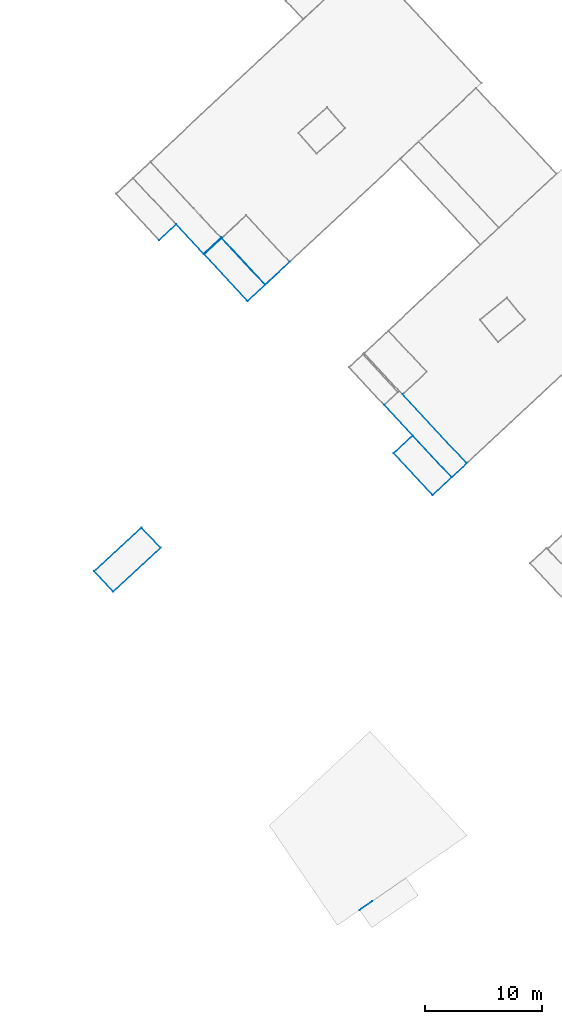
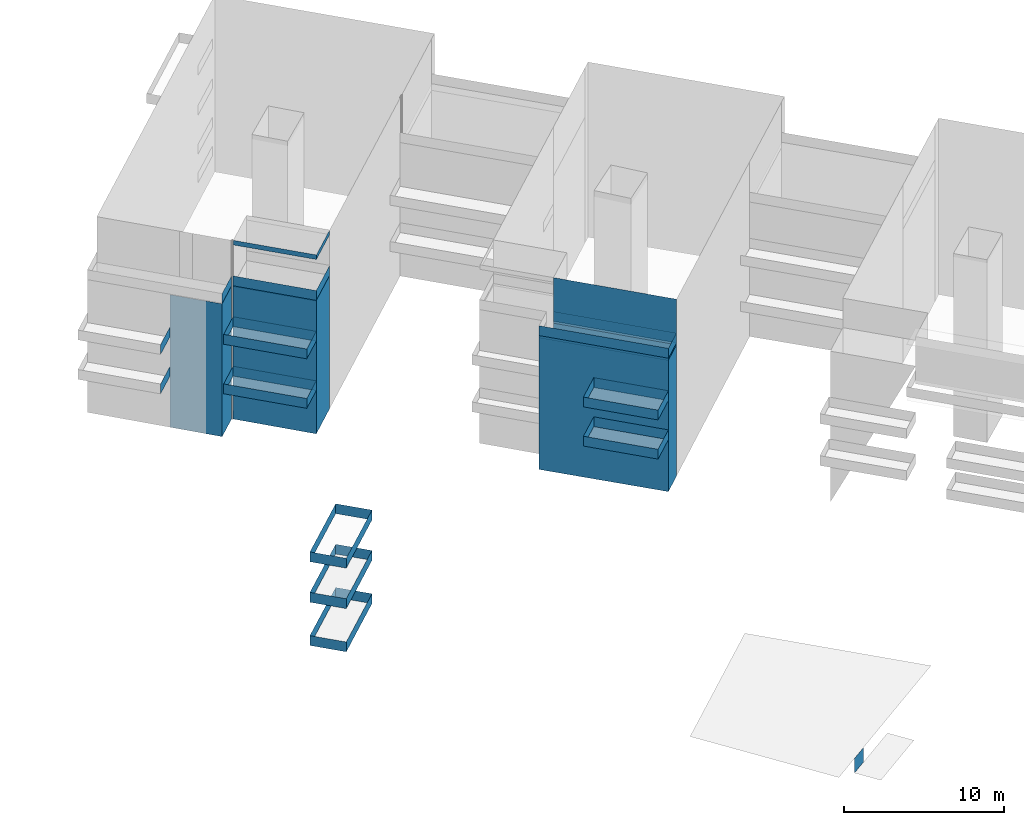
# Not in any storey, part 14 of 136: 89 walls.
"""IFC2X3 building model written with IfcOpenShell, lengths in metres."""

from ifc_helpers import new_model, entity, si_unit, converted_unit, frame, origin, place, context, subcontext, project, spatial, face_set, surface_model, element, save


model = new_model("IFC2X3")

# Units and contexts
model_context = context("Model", 3, precision=1e-05, world=origin())
body_context = subcontext(model_context, "Body", "Model", "MODEL_VIEW")
ifc_project = project(units=[converted_unit("PLANEANGLEUNIT", "DEGREE", entity("IfcRatioMeasure", 0.0174532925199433), si_unit("PLANEANGLEUNIT", "RADIAN"), dimensions=[0, 0, 0, 0, 0, 0, 0]), si_unit("AREAUNIT", "SQUARE_METRE"), si_unit("LENGTHUNIT", "METRE")], contexts=[model_context])

# Site, building
site_placement = place(None, origin())
site = spatial("IfcSite", under=ifc_project, at=site_placement, Name="_site", CompositionType="ELEMENT")
building_1_placement = place(site_placement, origin())
building_1 = spatial("IfcBuilding", under=site, at=building_1_placement, Name="_building", CompositionType="ELEMENT")

# Walls
wall_1_placement = place(building_1_placement, origin())
element("IfcWall", 1, at=wall_1_placement, inside=building_1, Name="Wall", context=body_context, shape_type="SurfaceModel", body=[
    surface_model("IfcFaceBasedSurfaceModel", [(108.5, -7.54, 45.01), (107.05, -8.89, 45.01), (107.05, -8.89, 45.76), (108.5, -7.54, 45.76)], [face_set([[[0, 1, 2, 3]]])]),
])
wall_2_placement = place(building_1_placement, origin())
element("IfcWall", 2, at=wall_2_placement, inside=building_1, Name="Wall", context=body_context, shape_type="SurfaceModel", body=[
    surface_model("IfcFaceBasedSurfaceModel", [(127.08, -27.09, 45.03), (128.7, -25.58, 45.03), (128.7, -25.58, 45.78), (127.08, -27.09, 45.78)], [face_set([[[0, 1, 2, 3]]])]),
])
wall_3_placement = place(building_1_placement, origin())
element("IfcWall", 3, at=wall_3_placement, inside=building_1, Name="Wall", context=body_context, shape_type="SurfaceModel", body=[
    surface_model("IfcFaceBasedSurfaceModel", [(130.41, -30.66, 45.03), (127.08, -27.09, 45.03), (127.08, -27.09, 45.78), (130.41, -30.66, 45.78)], [face_set([[[0, 1, 2, 3]]])]),
])
wall_4_placement = place(building_1_placement, origin())
element("IfcWall", 4, at=wall_4_placement, inside=building_1, Name="Wall", context=body_context, shape_type="SurfaceModel", body=[
    surface_model("IfcFaceBasedSurfaceModel", [(108.5, -7.54, 45.01), (107.05, -8.89, 45.01), (107.05, -8.89, 45.76), (108.5, -7.54, 45.76)], [face_set([[[0, 1, 2, 3]]])]),
])
wall_5_placement = place(building_1_placement, origin())
element("IfcWall", 5, at=wall_5_placement, inside=building_1, Name="Wall", context=body_context, shape_type="SurfaceModel", body=[
    surface_model("IfcFaceBasedSurfaceModel", [(132.03, -29.149, 45.03), (130.41, -30.66, 45.03), (130.41, -30.66, 45.78), (132.03, -29.149, 45.78)], [face_set([[[0, 1, 2, 3]]])]),
])
wall_6_placement = place(building_1_placement, origin())
element("IfcWall", 6, at=wall_6_placement, inside=building_1, Name="Wall", context=body_context, shape_type="SurfaceModel", body=[
    surface_model("IfcFaceBasedSurfaceModel", [(127.08, -27.09, 45.03), (128.7, -25.58, 45.03), (128.7, -25.58, 45.78), (127.08, -27.09, 45.78)], [face_set([[[0, 1, 2, 3]]])]),
])
wall_7_placement = place(building_1_placement, origin())
element("IfcWall", 7, at=wall_7_placement, inside=building_1, Name="Wall", context=body_context, shape_type="SurfaceModel", body=[
    surface_model("IfcFaceBasedSurfaceModel", [(130.41, -30.66, 45.03), (127.08, -27.09, 45.03), (127.08, -27.09, 45.78), (130.41, -30.66, 45.78)], [face_set([[[0, 1, 2, 3]]])]),
])
wall_8_placement = place(building_1_placement, origin())
element("IfcWall", 8, at=wall_8_placement, inside=building_1, Name="Wall", context=body_context, shape_type="SurfaceModel", body=[
    surface_model("IfcFaceBasedSurfaceModel", [(132.03, -29.149, 45.03), (130.41, -30.66, 45.03), (130.41, -30.66, 45.78), (132.03, -29.149, 45.78)], [face_set([[[0, 1, 2, 3]]])]),
])
wall_9_placement = place(building_1_placement, origin())
element("IfcWall", 9, at=wall_9_placement, inside=building_1, Name="Wall", context=body_context, shape_type="SurfaceModel", body=[
    surface_model("IfcFaceBasedSurfaceModel", [(128.7, -25.58, 45.03), (132.03, -29.149, 45.03), (132.03, -29.149, 45.78), (128.7, -25.58, 45.78)], [face_set([[[0, 1, 2, 3]]])]),
])
for number, where, name in (
    (10, (0.0, 0.0, 0.0), "Wall"),
    (11, (0.0, 0.0, 0.0), "Wall"),
):
    element("IfcWall", number, at=place(building_1_placement, frame(where)), inside=building_1, Name=name, context=body_context, shape_type="SurfaceModel", body=[
        surface_model("IfcFaceBasedSurfaceModel", [(108.5, -7.54, 42.0), (107.05, -8.89, 42.0), (107.05, -8.89, 42.75), (108.5, -7.54, 42.75)], [face_set([[[0, 1, 2, 3]]])]),
    ])
wall_10_placement = place(building_1_placement, origin())
element("IfcWall", 12, at=wall_10_placement, inside=building_1, Name="Wall", context=body_context, shape_type="SurfaceModel", body=[
    surface_model("IfcFaceBasedSurfaceModel", [(101.51, -37.17, 45.18), (105.53, -33.43, 45.18), (105.53, -33.43, 45.93), (101.51, -37.17, 45.93)], [face_set([[[0, 1, 2, 3]]])]),
])
wall_11_placement = place(building_1_placement, origin())
element("IfcWall", 13, at=wall_11_placement, inside=building_1, Name="Wall", context=body_context, shape_type="SurfaceModel", body=[
    surface_model("IfcFaceBasedSurfaceModel", [(103.13, -38.91, 45.18), (101.51, -37.17, 45.18), (101.51, -37.17, 45.93), (103.13, -38.91, 45.93)], [face_set([[[0, 1, 2, 3]]])]),
])
wall_12_placement = place(building_1_placement, origin())
element("IfcWall", 14, at=wall_12_placement, inside=building_1, Name="Wall", context=body_context, shape_type="SurfaceModel", body=[
    surface_model("IfcFaceBasedSurfaceModel", [(107.15, -35.16, 45.18), (103.13, -38.91, 45.18), (103.13, -38.91, 45.93), (107.15, -35.16, 45.93)], [face_set([[[0, 1, 2, 3]]])]),
])
wall_13_placement = place(building_1_placement, origin())
element("IfcWall", 15, at=wall_13_placement, inside=building_1, Name="Wall", context=body_context, shape_type="SurfaceModel", body=[
    surface_model("IfcFaceBasedSurfaceModel", [(105.53, -33.43, 45.18), (107.15, -35.16, 45.18), (107.15, -35.16, 45.93), (105.53, -33.43, 45.93)], [face_set([[[0, 1, 2, 3]]])]),
])
wall_14_placement = place(building_1_placement, origin())
element("IfcWall", 16, at=wall_14_placement, inside=building_1, Name="Wall", context=body_context, shape_type="SurfaceModel", body=[
    surface_model("IfcFaceBasedSurfaceModel", [(101.51, -37.17, 45.18), (105.53, -33.43, 45.18), (105.53, -33.43, 45.93), (101.51, -37.17, 45.93)], [face_set([[[0, 1, 2, 3]]])]),
])
wall_15_placement = place(building_1_placement, origin())
element("IfcWall", 17, at=wall_15_placement, inside=building_1, Name="Wall", context=body_context, shape_type="SurfaceModel", body=[
    surface_model("IfcFaceBasedSurfaceModel", [(103.13, -38.91, 45.18), (101.51, -37.17, 45.18), (101.51, -37.17, 45.93), (103.13, -38.91, 45.93)], [face_set([[[0, 1, 2, 3]]])]),
])
wall_16_placement = place(building_1_placement, origin())
element("IfcWall", 18, at=wall_16_placement, inside=building_1, Name="Wall", context=body_context, shape_type="SurfaceModel", body=[
    surface_model("IfcFaceBasedSurfaceModel", [(107.15, -35.16, 45.18), (103.13, -38.91, 45.18), (103.13, -38.91, 45.93), (107.15, -35.16, 45.93)], [face_set([[[0, 1, 2, 3]]])]),
])
wall_17_placement = place(building_1_placement, origin())
element("IfcWall", 19, at=wall_17_placement, inside=building_1, Name="Wall", context=body_context, shape_type="SurfaceModel", body=[
    surface_model("IfcFaceBasedSurfaceModel", [(105.53, -33.43, 45.18), (107.15, -35.16, 45.18), (107.15, -35.16, 45.93), (105.53, -33.43, 45.93)], [face_set([[[0, 1, 2, 3]]])]),
])
wall_18_placement = place(building_1_placement, origin())
element("IfcWall", 20, at=wall_18_placement, inside=building_1, Name="Wall", context=body_context, shape_type="SurfaceModel", body=[
    surface_model("IfcFaceBasedSurfaceModel", [(101.51, -37.17, 41.88), (105.53, -33.43, 41.88), (105.53, -33.43, 42.63), (101.51, -37.17, 42.63)], [face_set([[[0, 1, 2, 3]]])]),
])
wall_19_placement = place(building_1_placement, origin())
element("IfcWall", 21, at=wall_19_placement, inside=building_1, Name="Wall", context=body_context, shape_type="SurfaceModel", body=[
    surface_model("IfcFaceBasedSurfaceModel", [(103.13, -38.91, 41.88), (101.51, -37.17, 41.88), (101.51, -37.17, 42.63), (103.13, -38.91, 42.63)], [face_set([[[0, 1, 2, 3]]])]),
])
wall_20_placement = place(building_1_placement, origin())
element("IfcWall", 22, at=wall_20_placement, inside=building_1, Name="Wall", context=body_context, shape_type="SurfaceModel", body=[
    surface_model("IfcFaceBasedSurfaceModel", [(107.15, -35.16, 41.88), (103.13, -38.91, 41.88), (103.13, -38.91, 42.63), (107.15, -35.16, 42.63)], [face_set([[[0, 1, 2, 3]]])]),
])
wall_21_placement = place(building_1_placement, origin())
element("IfcWall", 23, at=wall_21_placement, inside=building_1, Name="Wall", context=body_context, shape_type="SurfaceModel", body=[
    surface_model("IfcFaceBasedSurfaceModel", [(116.09, -12.71, 48.29), (112.38, -8.729, 48.29), (112.38, -8.729, 49.04), (116.09, -12.71, 49.04)], [face_set([[[0, 1, 2, 3]]])]),
])
wall_22_placement = place(building_1_placement, origin())
element("IfcWall", 24, at=wall_22_placement, inside=building_1, Name="Wall", context=body_context, shape_type="SurfaceModel", body=[
    surface_model("IfcFaceBasedSurfaceModel", [(105.53, -33.43, 41.88), (107.15, -35.16, 41.88), (107.15, -35.16, 42.63), (105.53, -33.43, 42.63)], [face_set([[[0, 1, 2, 3]]])]),
])
wall_23_placement = place(building_1_placement, origin())
element("IfcWall", 25, at=wall_23_placement, inside=building_1, Name="Wall", context=body_context, shape_type="SurfaceModel", body=[
    surface_model("IfcFaceBasedSurfaceModel", [(101.51, -37.17, 41.88), (105.53, -33.43, 41.88), (105.53, -33.43, 42.63), (101.51, -37.17, 42.63)], [face_set([[[0, 1, 2, 3]]])]),
])
wall_24_placement = place(building_1_placement, origin())
element("IfcWall", 26, at=wall_24_placement, inside=building_1, Name="Wall", context=body_context, shape_type="SurfaceModel", body=[
    surface_model("IfcFaceBasedSurfaceModel", [(118.19, -10.75, 48.29), (116.09, -12.71, 48.29), (116.09, -12.71, 49.04), (118.19, -10.75, 49.04)], [face_set([[[0, 1, 2, 3]]])]),
])
wall_25_placement = place(building_1_placement, origin())
element("IfcWall", 27, at=wall_25_placement, inside=building_1, Name="Wall", context=body_context, shape_type="SurfaceModel", body=[
    surface_model("IfcFaceBasedSurfaceModel", [(103.13, -38.91, 41.88), (101.51, -37.17, 41.88), (101.51, -37.17, 42.63), (103.13, -38.91, 42.63)], [face_set([[[0, 1, 2, 3]]])]),
])
wall_26_placement = place(building_1_placement, origin())
element("IfcWall", 28, at=wall_26_placement, inside=building_1, Name="Wall", context=body_context, shape_type="SurfaceModel", body=[
    surface_model("IfcFaceBasedSurfaceModel", [(107.15, -35.16, 41.88), (103.13, -38.91, 41.88), (103.13, -38.91, 42.63), (107.15, -35.16, 42.63)], [face_set([[[0, 1, 2, 3]]])]),
])
wall_27_placement = place(building_1_placement, origin())
element("IfcWall", 29, at=wall_27_placement, inside=building_1, Name="Wall", context=body_context, shape_type="SurfaceModel", body=[
    surface_model("IfcFaceBasedSurfaceModel", [(105.53, -33.43, 41.88), (107.15, -35.16, 41.88), (107.15, -35.16, 42.63), (105.53, -33.43, 42.63)], [face_set([[[0, 1, 2, 3]]])]),
])
wall_28_placement = place(building_1_placement, origin())
element("IfcWall", 30, at=wall_28_placement, inside=building_1, Name="Wall", context=body_context, shape_type="SurfaceModel", body=[
    surface_model("IfcFaceBasedSurfaceModel", [(116.09, -12.71, 48.29), (112.38, -8.729, 48.29), (112.38, -8.729, 49.04), (116.09, -12.71, 49.04)], [face_set([[[0, 1, 2, 3]]])]),
])
wall_29_placement = place(building_1_placement, origin())
element("IfcWall", 31, at=wall_29_placement, inside=building_1, Name="Wall", context=body_context, shape_type="SurfaceModel", body=[
    surface_model("IfcFaceBasedSurfaceModel", [(118.19, -10.75, 48.29), (116.09, -12.71, 48.29), (116.09, -12.71, 49.04), (118.19, -10.75, 49.04)], [face_set([[[0, 1, 2, 3]]])]),
])
wall_30_placement = place(building_1_placement, origin())
element("IfcWall", 32, at=wall_30_placement, inside=building_1, Name="Wall", context=body_context, shape_type="SurfaceModel", body=[
    surface_model("IfcFaceBasedSurfaceModel", [(110.9, -10.11, 45.18), (112.38, -8.729, 45.18), (112.38, -8.729, 45.93), (110.9, -10.11, 45.93)], [face_set([[[0, 1, 2, 3]]])]),
])
wall_31_placement = place(building_1_placement, origin())
element("IfcWall", 33, at=wall_31_placement, inside=building_1, Name="Wall", context=body_context, shape_type="SurfaceModel", body=[
    surface_model("IfcFaceBasedSurfaceModel", [(114.61, -14.09, 45.18), (110.9, -10.11, 45.18), (110.9, -10.11, 45.93), (114.61, -14.09, 45.93)], [face_set([[[0, 1, 2, 3]]])]),
])
wall_32_placement = place(building_1_placement, origin())
element("IfcWall", 34, at=wall_32_placement, inside=building_1, Name="Wall", context=body_context, shape_type="SurfaceModel", body=[
    surface_model("IfcFaceBasedSurfaceModel", [(116.09, -12.71, 45.18), (114.61, -14.09, 45.18), (114.61, -14.09, 45.93), (116.09, -12.71, 45.93)], [face_set([[[0, 1, 2, 3]]])]),
])
wall_33_placement = place(building_1_placement, origin())
element("IfcWall", 35, at=wall_33_placement, inside=building_1, Name="Wall", context=body_context, shape_type="SurfaceModel", body=[
    surface_model("IfcFaceBasedSurfaceModel", [(110.9, -10.11, 45.18), (112.38, -8.729, 45.18), (112.38, -8.729, 45.93), (110.9, -10.11, 45.93)], [face_set([[[0, 1, 2, 3]]])]),
])
wall_34_placement = place(building_1_placement, origin())
element("IfcWall", 36, at=wall_34_placement, inside=building_1, Name="Wall", context=body_context, shape_type="SurfaceModel", body=[
    surface_model("IfcFaceBasedSurfaceModel", [(114.61, -14.09, 45.18), (110.9, -10.11, 45.18), (110.9, -10.11, 45.93), (114.61, -14.09, 45.93)], [face_set([[[0, 1, 2, 3]]])]),
])
wall_35_placement = place(building_1_placement, origin())
element("IfcWall", 37, at=wall_35_placement, inside=building_1, Name="Wall", context=body_context, shape_type="SurfaceModel", body=[
    surface_model("IfcFaceBasedSurfaceModel", [(116.09, -12.71, 45.18), (114.61, -14.09, 45.18), (114.61, -14.09, 45.93), (116.09, -12.71, 45.93)], [face_set([[[0, 1, 2, 3]]])]),
])
wall_36_placement = place(building_1_placement, origin())
element("IfcWall", 38, at=wall_36_placement, inside=building_1, Name="Wall", context=body_context, shape_type="SurfaceModel", body=[
    surface_model("IfcFaceBasedSurfaceModel", [(112.38, -8.729, 45.18), (116.09, -12.71, 45.18), (116.09, -12.71, 45.93), (112.38, -8.729, 45.93)], [face_set([[[0, 1, 2, 3]]])]),
])
wall_37_placement = place(building_1_placement, origin())
element("IfcWall", 39, at=wall_37_placement, inside=building_1, Name="Wall", context=body_context, shape_type="SurfaceModel", body=[
    surface_model("IfcFaceBasedSurfaceModel", [(101.51, -37.17, 48.27), (105.53, -33.43, 48.27), (105.53, -33.43, 49.02), (101.51, -37.17, 49.02)], [face_set([[[0, 1, 2, 3]]])]),
])
wall_38_placement = place(building_1_placement, origin())
element("IfcWall", 40, at=wall_38_placement, inside=building_1, Name="Wall", context=body_context, shape_type="SurfaceModel", body=[
    surface_model("IfcFaceBasedSurfaceModel", [(103.13, -38.91, 48.27), (101.51, -37.17, 48.27), (101.51, -37.17, 49.02), (103.13, -38.91, 49.02)], [face_set([[[0, 1, 2, 3]]])]),
])
wall_39_placement = place(building_1_placement, origin())
element("IfcWall", 41, at=wall_39_placement, inside=building_1, Name="Wall", context=body_context, shape_type="SurfaceModel", body=[
    surface_model("IfcFaceBasedSurfaceModel", [(107.15, -35.16, 48.27), (103.13, -38.91, 48.27), (103.13, -38.91, 49.02), (107.15, -35.16, 49.02)], [face_set([[[0, 1, 2, 3]]])]),
])
wall_40_placement = place(building_1_placement, origin())
element("IfcWall", 42, at=wall_40_placement, inside=building_1, Name="Wall", context=body_context, shape_type="SurfaceModel", body=[
    surface_model("IfcFaceBasedSurfaceModel", [(105.53, -33.43, 48.27), (107.15, -35.16, 48.27), (107.15, -35.16, 49.02), (105.53, -33.43, 49.02)], [face_set([[[0, 1, 2, 3]]])]),
])
wall_41_placement = place(building_1_placement, origin())
element("IfcWall", 43, at=wall_41_placement, inside=building_1, Name="Wall", context=body_context, shape_type="SurfaceModel", body=[
    surface_model("IfcFaceBasedSurfaceModel", [(101.51, -37.17, 48.27), (105.53, -33.43, 48.27), (105.53, -33.43, 49.02), (101.51, -37.17, 49.02)], [face_set([[[0, 1, 2, 3]]])]),
])
wall_42_placement = place(building_1_placement, origin())
element("IfcWall", 44, at=wall_42_placement, inside=building_1, Name="Wall", context=body_context, shape_type="SurfaceModel", body=[
    surface_model("IfcFaceBasedSurfaceModel", [(103.13, -38.91, 48.27), (101.51, -37.17, 48.27), (101.51, -37.17, 49.02), (103.13, -38.91, 49.02)], [face_set([[[0, 1, 2, 3]]])]),
])
wall_43_placement = place(building_1_placement, origin())
element("IfcWall", 45, at=wall_43_placement, inside=building_1, Name="Wall", context=body_context, shape_type="SurfaceModel", body=[
    surface_model("IfcFaceBasedSurfaceModel", [(107.15, -35.16, 48.27), (103.13, -38.91, 48.27), (103.13, -38.91, 49.02), (107.15, -35.16, 49.02)], [face_set([[[0, 1, 2, 3]]])]),
])
wall_44_placement = place(building_1_placement, origin())
element("IfcWall", 46, at=wall_44_placement, inside=building_1, Name="Wall", context=body_context, shape_type="SurfaceModel", body=[
    surface_model("IfcFaceBasedSurfaceModel", [(105.53, -33.43, 48.27), (107.15, -35.16, 48.27), (107.15, -35.16, 49.02), (105.53, -33.43, 49.02)], [face_set([[[0, 1, 2, 3]]])]),
])
wall_45_placement = place(building_1_placement, origin())
element("IfcWall", 47, at=wall_45_placement, inside=building_1, Name="Wall", context=body_context, shape_type="SurfaceModel", body=[
    surface_model("IfcFaceBasedSurfaceModel", [(127.08, -27.09, 42.04), (128.7, -25.58, 42.04), (128.7, -25.58, 42.79), (127.08, -27.09, 42.79)], [face_set([[[0, 1, 2, 3]]])]),
])
wall_46_placement = place(building_1_placement, origin())
element("IfcWall", 48, at=wall_46_placement, inside=building_1, Name="Wall", context=body_context, shape_type="SurfaceModel", body=[
    surface_model("IfcFaceBasedSurfaceModel", [(130.41, -30.66, 42.04), (127.08, -27.09, 42.04), (127.08, -27.09, 42.79), (130.41, -30.66, 42.79)], [face_set([[[0, 1, 2, 3]]])]),
])
wall_47_placement = place(building_1_placement, origin())
element("IfcWall", 49, at=wall_47_placement, inside=building_1, Name="Wall", context=body_context, shape_type="SurfaceModel", body=[
    surface_model("IfcFaceBasedSurfaceModel", [(132.03, -29.149, 42.04), (130.41, -30.66, 42.04), (130.41, -30.66, 42.79), (132.03, -29.149, 42.79)], [face_set([[[0, 1, 2, 3]]])]),
])
wall_48_placement = place(building_1_placement, origin())
element("IfcWall", 50, at=wall_48_placement, inside=building_1, Name="Wall", context=body_context, shape_type="SurfaceModel", body=[
    surface_model("IfcFaceBasedSurfaceModel", [(127.08, -27.09, 42.04), (128.7, -25.58, 42.04), (128.7, -25.58, 42.79), (127.08, -27.09, 42.79)], [face_set([[[0, 1, 2, 3]]])]),
])
wall_49_placement = place(building_1_placement, origin())
element("IfcWall", 51, at=wall_49_placement, inside=building_1, Name="Wall", context=body_context, shape_type="SurfaceModel", body=[
    surface_model("IfcFaceBasedSurfaceModel", [(130.41, -30.66, 42.04), (127.08, -27.09, 42.04), (127.08, -27.09, 42.79), (130.41, -30.66, 42.79)], [face_set([[[0, 1, 2, 3]]])]),
])
wall_50_placement = place(building_1_placement, origin())
element("IfcWall", 52, at=wall_50_placement, inside=building_1, Name="Wall", context=body_context, shape_type="SurfaceModel", body=[
    surface_model("IfcFaceBasedSurfaceModel", [(132.03, -29.149, 42.04), (130.41, -30.66, 42.04), (130.41, -30.66, 42.79), (132.03, -29.149, 42.79)], [face_set([[[0, 1, 2, 3]]])]),
])
wall_51_placement = place(building_1_placement, origin())
element("IfcWall", 53, at=wall_51_placement, inside=building_1, Name="Wall", context=body_context, shape_type="SurfaceModel", body=[
    surface_model("IfcFaceBasedSurfaceModel", [(128.7, -25.58, 42.04), (132.03, -29.149, 42.04), (132.03, -29.149, 42.79), (128.7, -25.58, 42.79)], [face_set([[[0, 1, 2, 3]]])]),
])
wall_52_placement = place(building_1_placement, origin())
element("IfcWall", 54, at=wall_52_placement, inside=building_1, Name="Wall", context=body_context, shape_type="SurfaceModel", body=[
    surface_model("IfcFaceBasedSurfaceModel", [(116.09, -12.71, 48.29), (112.38, -8.729, 48.29), (112.38, -8.729, 38.12), (116.09, -12.71, 38.097)], [face_set([[[0, 1, 2, 3]]])]),
])
wall_53_placement = place(building_1_placement, origin())
element("IfcWall", 55, at=wall_53_placement, inside=building_1, Name="Wall", context=body_context, shape_type="SurfaceModel", body=[
    surface_model("IfcFaceBasedSurfaceModel", [(112.32, -8.66, 48.29), (110.83, -10.05, 48.29), (110.83, -10.05, 38.115), (112.32, -8.66, 38.121)], [face_set([[[0, 1, 2, 3]]])]),
])
wall_54_placement = place(building_1_placement, origin())
element("IfcWall", 56, at=wall_54_placement, inside=building_1, Name="Wall", context=body_context, shape_type="SurfaceModel", body=[
    surface_model("IfcFaceBasedSurfaceModel", [(132.03, -29.149, 48.26), (126.26, -22.96, 48.26), (126.26, -22.96, 38.037), (132.03, -29.149, 38.074)], [face_set([[[0, 1, 2, 3]]])]),
])
wall_55_placement = place(building_1_placement, origin())
element("IfcWall", 57, at=wall_55_placement, inside=building_1, Name="Wall", context=body_context, shape_type="SurfaceModel", body=[
    surface_model("IfcFaceBasedSurfaceModel", [(133.31, -27.95, 48.26), (132.03, -29.149, 48.26), (132.03, -29.149, 38.074), (133.31, -27.95, 38.092)], [face_set([[[0, 1, 2, 3]]])]),
])
wall_56_placement = place(building_1_placement, origin())
element("IfcWall", 58, at=wall_56_placement, inside=building_1, Name="Wall", context=body_context, shape_type="SurfaceModel", body=[
    surface_model("IfcFaceBasedSurfaceModel", [(118.19, -10.75, 48.29), (116.09, -12.71, 48.29), (116.09, -12.71, 38.097), (118.19, -10.75, 38.104)], [face_set([[[0, 1, 2, 3]]])]),
])
wall_57_placement = place(building_1_placement, origin())
element("IfcWall", 59, at=wall_57_placement, inside=building_1, Name="Wall", context=body_context, shape_type="SurfaceModel", body=[
    surface_model("IfcFaceBasedSurfaceModel", [(132.03, -29.149, 48.11), (126.26, -22.96, 48.11), (126.26, -22.96, 38.037), (132.03, -29.149, 38.074)], [face_set([[[0, 1, 2, 3]]])]),
])
wall_58_placement = place(building_1_placement, origin())
element("IfcWall", 60, at=wall_58_placement, inside=building_1, Name="Wall", context=body_context, shape_type="SurfaceModel", body=[
    surface_model("IfcFaceBasedSurfaceModel", [(133.31, -27.95, 48.11), (132.03, -29.149, 48.11), (132.03, -29.149, 38.074), (133.31, -27.95, 38.092)], [face_set([[[0, 1, 2, 3]]])]),
])
wall_59_placement = place(building_1_placement, origin())
element("IfcWall", 61, at=wall_59_placement, inside=building_1, Name="Wall", context=body_context, shape_type="SurfaceModel", body=[
    surface_model("IfcFaceBasedSurfaceModel", [(116.09, -12.71, 48.25), (112.38, -8.729, 48.25), (112.38, -8.729, 38.12), (116.09, -12.71, 38.097)], [face_set([[[0, 1, 2, 3]]])]),
])
wall_60_placement = place(building_1_placement, origin())
element("IfcWall", 62, at=wall_60_placement, inside=building_1, Name="Wall", context=body_context, shape_type="SurfaceModel", body=[
    surface_model("IfcFaceBasedSurfaceModel", [(118.19, -10.75, 48.25), (116.09, -12.71, 48.25), (116.09, -12.71, 38.097), (118.19, -10.75, 38.104)], [face_set([[[0, 1, 2, 3]]])]),
])
wall_61_placement = place(building_1_placement, origin())
element("IfcWall", 63, at=wall_61_placement, inside=building_1, Name="Wall", context=body_context, shape_type="SurfaceModel", body=[
    surface_model("IfcFaceBasedSurfaceModel", [(110.83, -10.05, 48.25), (108.5, -7.54, 48.25), (108.5, -7.54, 38.131), (110.83, -10.05, 38.115)], [face_set([[[0, 1, 2, 3]]])]),
])
wall_62_placement = place(building_1_placement, origin())
element("IfcWall", 64, at=wall_62_placement, inside=building_1, Name="Wall", context=body_context, shape_type="SurfaceModel", body=[
    surface_model("IfcFaceBasedSurfaceModel", [(112.32, -8.66, 48.25), (110.83, -10.05, 48.25), (110.83, -10.05, 38.115), (112.32, -8.66, 38.121)], [face_set([[[0, 1, 2, 3]]])]),
])
wall_63_placement = place(building_1_placement, origin())
element("IfcWall", 65, at=wall_63_placement, inside=building_1, Name="Wall", context=body_context, shape_type="SurfaceModel", body=[
    surface_model("IfcFaceBasedSurfaceModel", [(110.9, -10.11, 41.4), (112.38, -8.729, 41.4), (112.38, -8.729, 42.15), (110.9, -10.11, 42.15)], [face_set([[[0, 1, 2, 3]]])]),
])
wall_64_placement = place(building_1_placement, origin())
element("IfcWall", 66, at=wall_64_placement, inside=building_1, Name="Wall", context=body_context, shape_type="SurfaceModel", body=[
    surface_model("IfcFaceBasedSurfaceModel", [(114.61, -14.09, 41.4), (110.9, -10.11, 41.4), (110.9, -10.11, 42.15), (114.61, -14.09, 42.15)], [face_set([[[0, 1, 2, 3]]])]),
])
wall_65_placement = place(building_1_placement, origin())
element("IfcWall", 67, at=wall_65_placement, inside=building_1, Name="Wall", context=body_context, shape_type="SurfaceModel", body=[
    surface_model("IfcFaceBasedSurfaceModel", [(116.09, -12.71, 41.4), (114.61, -14.09, 41.4), (114.61, -14.09, 42.15), (116.09, -12.71, 42.15)], [face_set([[[0, 1, 2, 3]]])]),
])
wall_66_placement = place(building_1_placement, origin())
element("IfcWall", 68, at=wall_66_placement, inside=building_1, Name="Wall", context=body_context, shape_type="SurfaceModel", body=[
    surface_model("IfcFaceBasedSurfaceModel", [(110.9, -10.11, 41.4), (112.38, -8.729, 41.4), (112.38, -8.729, 42.15), (110.9, -10.11, 42.15)], [face_set([[[0, 1, 2, 3]]])]),
])
wall_67_placement = place(building_1_placement, origin())
element("IfcWall", 69, at=wall_67_placement, inside=building_1, Name="Wall", context=body_context, shape_type="SurfaceModel", body=[
    surface_model("IfcFaceBasedSurfaceModel", [(114.61, -14.09, 41.4), (110.9, -10.11, 41.4), (110.9, -10.11, 42.15), (114.61, -14.09, 42.15)], [face_set([[[0, 1, 2, 3]]])]),
])
wall_68_placement = place(building_1_placement, origin())
element("IfcWall", 70, at=wall_68_placement, inside=building_1, Name="Wall", context=body_context, shape_type="SurfaceModel", body=[
    surface_model("IfcFaceBasedSurfaceModel", [(116.09, -12.71, 41.4), (114.61, -14.09, 41.4), (114.61, -14.09, 42.15), (116.09, -12.71, 42.15)], [face_set([[[0, 1, 2, 3]]])]),
])
wall_69_placement = place(building_1_placement, origin())
element("IfcWall", 71, at=wall_69_placement, inside=building_1, Name="Wall", context=body_context, shape_type="SurfaceModel", body=[
    surface_model("IfcFaceBasedSurfaceModel", [(112.38, -8.729, 41.4), (116.09, -12.71, 41.4), (116.09, -12.71, 42.15), (112.38, -8.729, 42.15)], [face_set([[[0, 1, 2, 3]]])]),
])
wall_70_placement = place(building_1_placement, origin())
element("IfcWall", 72, at=wall_70_placement, inside=building_1, Name="Wall", context=body_context, shape_type="SurfaceModel", body=[
    surface_model("IfcFaceBasedSurfaceModel", [(118.19, -10.75, 51.74), (116.11, -12.689, 51.74), (116.11, -12.689, 51.39), (118.19, -10.75, 51.39)], [face_set([[[0, 1, 2, 3]]])]),
])
for number, where, name in (
    (73, (0.0, 0.0, 0.0), "Wall"),
    (74, (0.0, 0.0, 0.0), "Wall"),
):
    element("IfcWall", number, at=place(building_1_placement, frame(where)), inside=building_1, Name=name, context=body_context, shape_type="SurfaceModel", body=[
        surface_model("IfcFaceBasedSurfaceModel", [(112.32, -8.66, 48.29), (110.83, -10.05, 48.29), (110.83, -10.05, 49.04), (112.32, -8.66, 49.04)], [face_set([[[0, 1, 2, 3]]])]),
    ])
wall_71_placement = place(building_1_placement, origin())
element("IfcWall", 75, at=wall_71_placement, inside=building_1, Name="Wall", context=body_context, shape_type="SurfaceModel", body=[
    surface_model("IfcFaceBasedSurfaceModel", [(132.03, -29.149, 48.26), (126.26, -22.96, 48.26), (126.26, -22.96, 49.01), (132.03, -29.149, 49.01)], [face_set([[[0, 1, 2, 3]]])]),
])
wall_72_placement = place(building_1_placement, origin())
element("IfcWall", 76, at=wall_72_placement, inside=building_1, Name="Wall", context=body_context, shape_type="SurfaceModel", body=[
    surface_model("IfcFaceBasedSurfaceModel", [(133.31, -27.95, 48.26), (132.03, -29.149, 48.26), (132.03, -29.149, 49.01), (133.31, -27.95, 49.01)], [face_set([[[0, 1, 2, 3]]])]),
])
wall_73_placement = place(building_1_placement, origin())
element("IfcWall", 77, at=wall_73_placement, inside=building_1, Name="Wall", context=body_context, shape_type="SurfaceModel", body=[
    surface_model("IfcFaceBasedSurfaceModel", [(132.03, -29.149, 48.26), (126.26, -22.96, 48.26), (126.26, -22.96, 49.01), (132.03, -29.149, 49.01)], [face_set([[[0, 1, 2, 3]]])]),
])
wall_74_placement = place(building_1_placement, origin())
element("IfcWall", 78, at=wall_74_placement, inside=building_1, Name="Wall", context=body_context, shape_type="SurfaceModel", body=[
    surface_model("IfcFaceBasedSurfaceModel", [(133.31, -27.95, 48.26), (132.03, -29.149, 48.26), (132.03, -29.149, 49.01), (133.31, -27.95, 49.01)], [face_set([[[0, 1, 2, 3]]])]),
])

# Building
building_2_placement = place(site_placement, origin())
building_2 = spatial("IfcBuilding", under=site, at=building_2_placement, Name="_building", CompositionType="ELEMENT")

# Walls
wall_75_placement = place(building_2_placement, origin())
element("IfcWall", 79, at=wall_75_placement, inside=building_2, Name="Wall", context=body_context, shape_type="SurfaceModel", body=[
    surface_model("IfcFaceBasedSurfaceModel", [(128.7, -25.58, 42.04), (132.03, -29.149, 42.04), (132.03, -29.149, 42.79), (128.7, -25.58, 42.79)], [face_set([[[0, 1, 2, 3]]])]),
])
wall_76_placement = place(building_2_placement, origin())
element("IfcWall", 80, at=wall_76_placement, inside=building_2, Name="Wall", context=body_context, shape_type="SurfaceModel", body=[
    surface_model("IfcFaceBasedSurfaceModel", [(127.82, -22.06, 48.26), (133.31, -27.95, 48.26), (133.31, -27.95, 38.092), (127.82, -22.06, 38.048)], [face_set([[[0, 1, 2, 3]]])]),
])
wall_77_placement = place(building_2_placement, origin())
element("IfcWall", 81, at=wall_77_placement, inside=building_2, Name="Wall", context=body_context, shape_type="SurfaceModel", body=[
    surface_model("IfcFaceBasedSurfaceModel", [(133.31, -27.95, 51.59), (127.82, -22.06, 51.59), (127.82, -22.06, 48.11), (133.31, -27.95, 48.11)], [face_set([[[0, 1, 2, 3]]])]),
])
for number, where, name in (
    (82, (0.0, 0.0, 0.0), "Wall"),
    (83, (0.0, 0.0, 0.0), "Wall"),
):
    element("IfcWall", number, at=place(building_2_placement, frame(where)), inside=building_2, Name=name, context=body_context, shape_type="SurfaceModel", body=[
        surface_model("IfcFaceBasedSurfaceModel", [(127.82, -22.06, 48.26), (133.31, -27.95, 48.26), (133.31, -27.95, 49.01), (127.82, -22.06, 49.01)], [face_set([[[0, 1, 2, 3]]])]),
    ])

# Building
building_3_placement = place(site_placement, origin())
building_3 = spatial("IfcBuilding", under=site, at=building_3_placement, Name="_building", CompositionType="ELEMENT")

# Walls
wall_78_placement = place(building_3_placement, origin())
element("IfcWall", 84, at=wall_78_placement, inside=building_3, Name="Wall", context=body_context, shape_type="SurfaceModel", body=[
    surface_model("IfcFaceBasedSurfaceModel", [(112.38, -8.729, 45.18), (116.09, -12.71, 45.18), (116.09, -12.71, 45.93), (112.38, -8.729, 45.93)], [face_set([[[0, 1, 2, 3]]])]),
])
wall_79_placement = place(building_3_placement, origin())
element("IfcWall", 85, at=wall_79_placement, inside=building_3, Name="Wall", context=body_context, shape_type="SurfaceModel", body=[
    surface_model("IfcFaceBasedSurfaceModel", [(112.38, -8.729, 41.4), (116.09, -12.71, 41.4), (116.09, -12.71, 42.15), (112.38, -8.729, 42.15)], [face_set([[[0, 1, 2, 3]]])]),
])
for number, where, name in (
    (86, (0.0, 0.0, 0.0), "Wall"),
    (87, (0.0, 0.0, 0.0), "Wall"),
):
    element("IfcWall", number, at=place(building_3_placement, frame(where)), inside=building_3, Name=name, context=body_context, shape_type="SurfaceModel", body=[
        surface_model("IfcFaceBasedSurfaceModel", [(116.11, -12.689, 51.74), (112.4, -8.71, 51.74), (112.4, -8.71, 51.39), (116.11, -12.689, 51.39)], [face_set([[[0, 1, 2, 3]]])]),
    ])
wall_80_placement = place(building_3_placement, origin())
element("IfcWall", 88, at=wall_80_placement, inside=building_3, Name="Wall", context=body_context, shape_type="SurfaceModel", body=[
    surface_model("IfcFaceBasedSurfaceModel", [(118.19, -10.75, 51.74), (116.11, -12.689, 51.74), (116.11, -12.689, 51.39), (118.19, -10.75, 51.39)], [face_set([[[0, 1, 2, 3]]])]),
])

# Building
building_4_placement = place(site_placement, origin())
building_4 = spatial("IfcBuilding", under=site, at=building_4_placement, Name="_building", CompositionType="ELEMENT")

# Wall
wall_81_placement = place(building_4_placement, origin())
element("IfcWall", 89, at=wall_81_placement, inside=building_4, Name="Wall", context=body_context, shape_type="SurfaceModel", body=[
    surface_model("IfcFaceBasedSurfaceModel", [(125.22, -65.34, 42.86), (124.14, -66.09, 42.86), (124.14, -66.09, 41.75), (125.22, -65.34, 41.75)], [face_set([[[0, 1, 2, 3]]])]),
])

save(model, "model.ifc")
